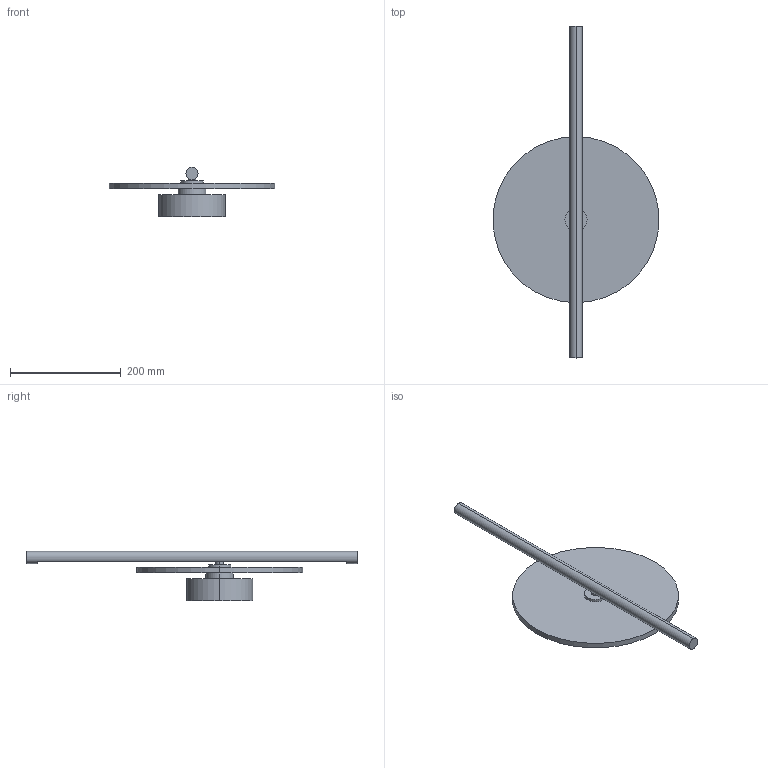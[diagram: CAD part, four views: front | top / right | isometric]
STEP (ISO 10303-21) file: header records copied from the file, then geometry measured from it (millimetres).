
FILE_DESCRIPTION (( 'STEP AP214' ), '1' );
FILE_NAME ('AU1328_POINT.STEP', '2026-06-05T07:24:57', ( '' ), ( '' ), 'SwSTEP 2.0', 'SolidWorks 2023', '' );
FILE_SCHEMA (( 'AUTOMOTIVE_DESIGN' ));
Length unit declared in the file: inch
Products named in the file (1): AU1328_POINT
Bounding box: 300 x 600 x 88.88 mm (x, y, z)
Volume: 1394124 mm3; surface area: 236550.4 mm2
Topology: 6 solids, 6 shells, 38 faces, 69 edges, 46 vertices
Faces by surface type: cylinder 20, plane 18
Entity records: 1043 total; most frequent: DIRECTION 191, CARTESIAN_POINT 154, ORIENTED_EDGE 138, AXIS2_PLACEMENT_3D 83, EDGE_CURVE 69, VERTEX_POINT 46, CIRCLE 44, EDGE_LOOP 43
